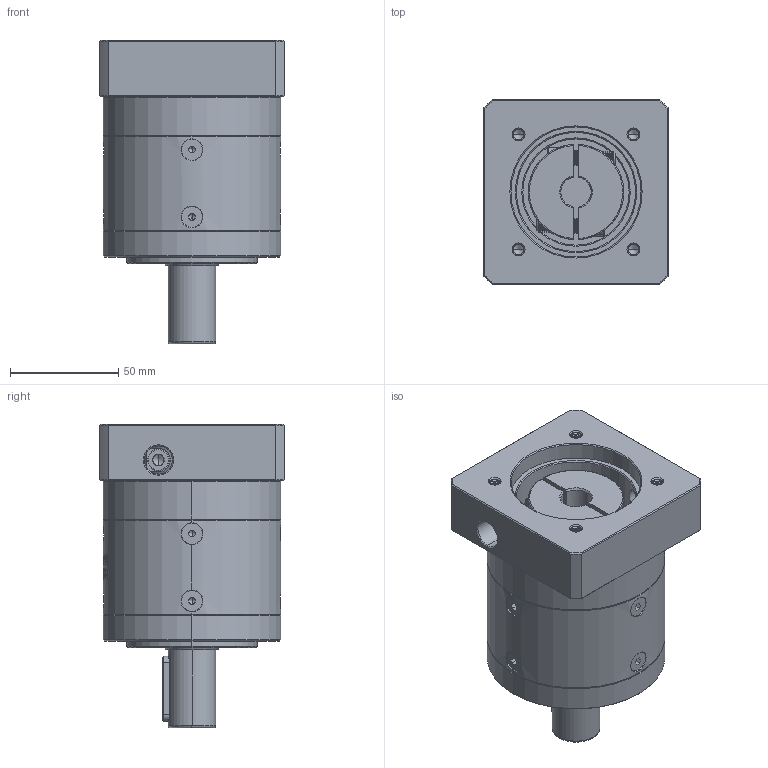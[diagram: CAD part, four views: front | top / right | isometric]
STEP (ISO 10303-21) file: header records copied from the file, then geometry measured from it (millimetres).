
FILE_DESCRIPTION (( 'STEP AP214' ), '1' );
FILE_NAME ('ZE080-D22-L1-P2-14-60-75-M6.step', '2023-08-25T09:40:12', ( '' ), ( '' ), 'SwSTEP 2.0', 'SolidWorks 2016', '' );
FILE_SCHEMA (( 'AUTOMOTIVE_DESIGN' ));
Length unit declared in the file: millimetre
Products named in the file (1): ZE080-D22-L1-P2-14-60-75-M6
Bounding box: 85 x 85 x 140 mm (x, y, z)
Volume: 532391.2 mm3; surface area: 84706.4 mm2
Topology: 13 solids, 13 shells, 2237 faces, 5866 edges, 3723 vertices
Faces by surface type: plane 1059, cylinder 411, bspline 397, cone 333, torus 37
Entity records: 121700 total; most frequent: CARTESIAN_POINT 47247, ORIENTED_EDGE 11656, DIRECTION 8583, EDGE_CURVE 5828, VERTEX_POINT 3723, VECTOR 3083, LINE 3083, AXIS2_PLACEMENT_3D 2750
